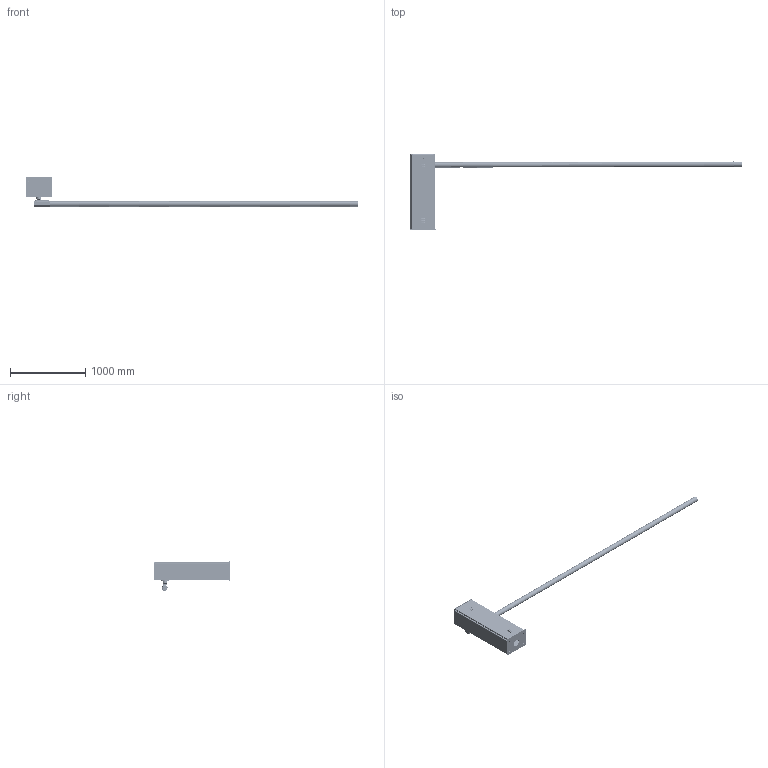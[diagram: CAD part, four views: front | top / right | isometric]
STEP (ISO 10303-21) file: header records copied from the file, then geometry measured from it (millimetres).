
FILE_DESCRIPTION(/* description */ ('Unknown'),/* implementation_level */ '2;1');
FILE_NAME(/* name */ 'GS14 D70 4,3',/* time_stamp */ '2023-09-18T12:35:59+03:00',/* author */ ('Unknown'),/* organization */ ('Unknown'),/* preprocessor_version */ 'ST-DEVELOPER v18.102',/* originating_system */ 'Solid Edge',/* authorisation */ 'Unknown');
FILE_SCHEMA (('AUTOMOTIVE_DESIGN {1 0 10303 214 3 1 1}'));
Products named in the file (129): GS14 D70 4,3; S14.100.00 极矐膻賚 GS14_0; 18B DC 砎魤鍱_0; GS14.010.00 扻豵鵨; GS14.010.01 栺鍣罻; GS14.012.00 砑僔蠂縺; GS14.012.01 砑僔蠂縺; GS14.012.02 Áîáûøêà; GS14.010.04 Êðûøà; GS14.010.06 ﾄ濵; GS14.010.05 砑僔蠂縺; GS14.010.02 Øâåëëåð; GS14.010.23 赶鎀鍧; GS14.010.10 Øâåëëåð; GS14.010.11 ﾇ璋襃; GS14.010.26 赶鎀鍧; Øïèëüêà_ïðèâàðíàÿ_Ì6õ16_ìåäí.; GS14.010.25 Ðàìêà; GS14.010.22 栺樏鋋; GS14.040.00 Áëîê óïðàâëåíèÿ â ñáîðå; Ñòîéêà_DA5M3õ20; 嵑殧趌3_DIN_127; 嵑殧趌3_DIN_125; 蹴濋趌M3_DIN_934; GS14.070.00 Ôîòîýëåìåíò; õîìóò ïëàñòèêîâûé; 鎔艜_M2x6_DIN_7985; 嵑殧趌2_DIN_127; GS4.070.02 Ïëàòà ôîòîýëåìåíòà; 嵑殧趌2_DIN_125; 栺鍣罻_HP2-11_翴澣鍙; GS4.710.00-01 Ïëàòà â ñáîðå; ïëàòà óñëîâíî; 譇踖樦 2pin; 譇踖樦 3pin; êîíäåíñàòîð; 謥錼; 譇踖樦1; 譇踖樦3; ýëåìåíò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
Assembly tree (314 placements, depth 5):
  GS14 D70 4,3
    S14.100.00 极矐膻賚 GS14_0
      18B DC 砎魤鍱_0
    GS14.010.00 扻豵鵨
      GS14.010.01 栺鍣罻
      GS14.012.00 砑僔蠂縺
        GS14.012.01 砑僔蠂縺
        GS14.012.02 Áîáûøêà  x6
      GS14.010.04 Êðûøà
      GS14.010.06 ﾄ濵
      GS14.010.05 砑僔蠂縺
      GS14.010.02 Øâåëëåð
      GS14.010.23 赶鎀鍧  x2
      GS14.010.10 Øâåëëåð  x2
      GS14.010.11 ﾇ璋襃  x2
      GS14.010.26 赶鎀鍧  x4
      Øïèëüêà_ïðèâàðíàÿ_Ì6õ16_ìåäí.
      GS14.010.25 Ðàìêà  x2
    GS14.010.22 栺樏鋋  x2
    GS14.040.00 Áëîê óïðàâëåíèÿ â ñáîðå
      Ñòîéêà_DA5M3õ20  x4
      嵑殧趌3_DIN_127  x8
      嵑殧趌3_DIN_125  x8
      蹴濋趌M3_DIN_934  x4
      GS14.070.00 Ôîòîýëåìåíò
        õîìóò ïëàñòèêîâûé  x2
        鎔艜_M2x6_DIN_7985  x8
        嵑殧趌2_DIN_127  x8
        GS4.070.02 Ïëàòà ôîòîýëåìåíòà
        嵑殧趌2_DIN_125  x8
        栺鍣罻_HP2-11_翴澣鍙  x4
      GS4.710.00-01 Ïëàòà â ñáîðå
        ïëàòà óñëîâíî
        譇踖樦 2pin  x15
        譇踖樦 3pin  x2
        êîíäåíñàòîð  x4
        謥錼  x8
        譇踖樦1  x5
        譇踖樦3
        ýëåìåíò
        譇踖樦4
        Ïåðåêëþ÷àòåëü ÂÄÌ1-4 (SWD1-4)  x4
        c-1586041-8-b-3d
          C-1586041-8
      鎔艜_M3x8_DIN_7985  x4
      GS14.040.03 眈翴錪
      GS14.040.02 赶鎀鍧  x2
      GCM1.710.00 Ïëàòà áåñïðîâîäíîé ïåðåäà÷è
        Ïëàòà BLE
        DS-4
        ñâåòîäèîä
        sim2055_6_0_18_00_a
          sim2055_6_0_18_00_a_PART1
          sim2055_6_0_18_00_a_PART2
          sim2055_6_0_18_00_a_PART3
          sim2055_6_0_18_00_a_PART4
          sim2055_6_0_18_00_a_PART5
          sim2055_6_0_18_00_a_PART6
          sim2055_6_0_18_00_a_PART7
          sim2055_6_0_18_00_a_PART8
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Bounding box: 4410 x 1003.09 x 395.58 mm (x, y, z)
Volume: 18655881.7 mm3; surface area: 7733978.7 mm2
Topology: 313 solids, 314 shells, 8843 faces, 21370 edges, 13607 vertices
Faces by surface type: plane 6064, cylinder 1857, cone 426, torus 205, bspline 179, sphere 112
Full cylindrical faces by diameter (mm): 0.688 x1, 0.851 x1, 1 x4, 1.567 x6, 1.728 x2, 1.836 x8, 2 x19, 2.2 x8, 2.459 x28, 2.5 x20, 2.796 x4, 3 x136, 3.2 x8, 3.242 x10, 3.3 x2, 3.5 x36, 3.6 x40, 3.714 x6, 3.8 x6, 4 x31, 4.019 x4, 4.2 x4, 4.3 x6, 4.5 x3, 4.773 x1, 4.8 x4, 4.917 x14, 5 x33, 5.2 x24, 5.5 x20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
Entity records: 166854 total; most frequent: CARTESIAN_POINT 39215, DIRECTION 22415, ORIENTED_EDGE 22310, EDGE_CURVE 11155, LINE 7919, VECTOR 7919, VERTEX_POINT 7578, AXIS2_PLACEMENT_3D 7248
